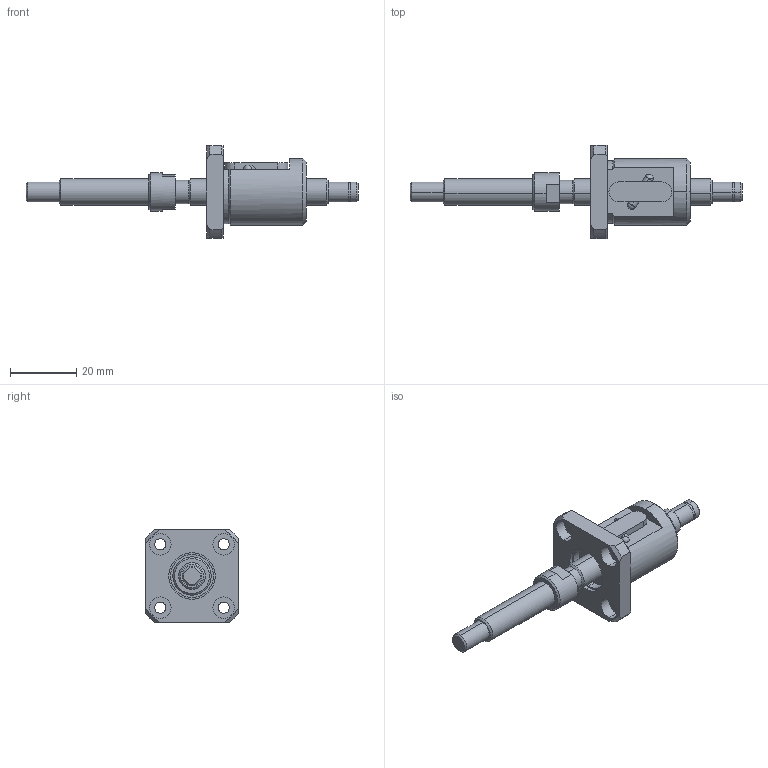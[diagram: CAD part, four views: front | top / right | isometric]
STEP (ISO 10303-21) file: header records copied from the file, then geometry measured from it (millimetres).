
FILE_DESCRIPTION (( 'STEP AP203' ), '1' );
FILE_NAME ('TS0802 assy_20160716.STEP', '2016-07-16T04:47:40', ( 'user' ), ( 'Hewlett-Packard Company' ), 'SwSTEP 2.0', 'SolidWorks 2014', '' );
FILE_SCHEMA (( 'CONFIG_CONTROL_DESIGN' ));
Length unit declared in the file: millimetre
Products named in the file (3): TS0802 screw; TS0802 nut; TS0802 assy_20160716
Assembly tree (2 placements, depth 2):
  TS0802 assy_20160716
    TS0802 screw
    TS0802 nut
Bounding box: 100 x 28 x 28 mm (x, y, z)
Volume: 13424.4 mm3; surface area: 7470.4 mm2
Topology: 2 solids, 2 shells, 119 faces, 291 edges, 187 vertices
Faces by surface type: cylinder 57, plane 33, cone 26, sphere 3
Entity records: 3900 total; most frequent: CARTESIAN_POINT 706, DIRECTION 661, ORIENTED_EDGE 574, EDGE_CURVE 287, AXIS2_PLACEMENT_3D 276, VERTEX_POINT 185, CIRCLE 152, EDGE_LOOP 142
